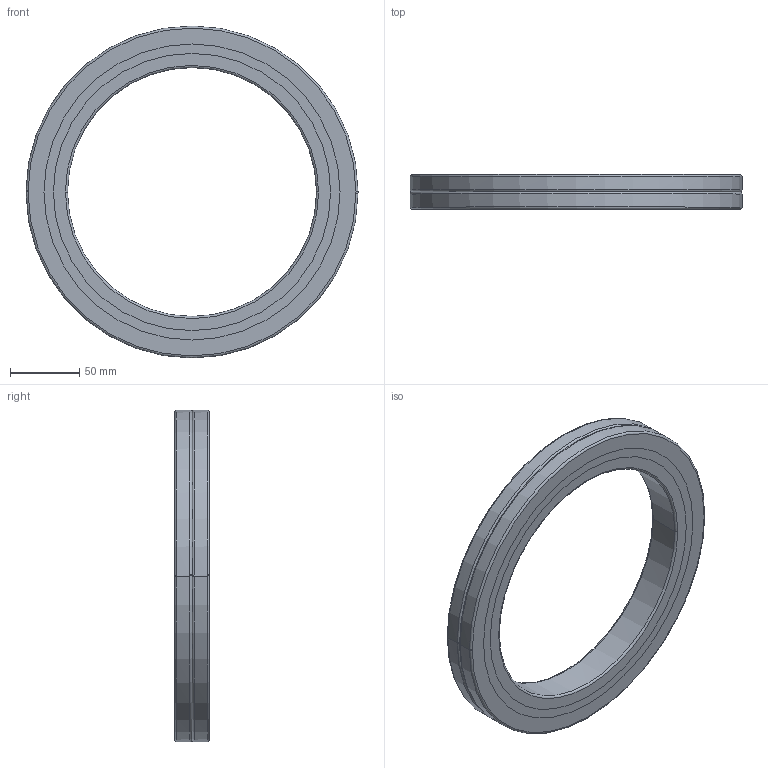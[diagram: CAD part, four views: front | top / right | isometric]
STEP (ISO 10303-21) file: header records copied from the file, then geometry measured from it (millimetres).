
FILE_DESCRIPTION(('no description'),'unknown implementation level');
FILE_NAME('CRBA18025_37.stp',' ',('HIWIN GmbH'),('CADClick - KiM GmbH - www.kimweb.de'),'unknown preprocess','ACIS','unknown authorization');
FILE_SCHEMA(('automotive_design'));
Length unit declared in the file: millimetre
Products named in the file (5): CRBA18025_1; CRBA18025_2; CRBA18025_3; CRBA18025_4; CRBA18025
Bounding box: 240 x 25 x 240 mm (x, y, z)
Volume: 399846.6 mm3; surface area: 135047.8 mm2
Topology: 5 solids, 5 shells, 54 faces, 120 edges, 76 vertices
Faces by surface type: torus 24, cylinder 20, plane 10
Entity records: 3096 total; most frequent: DIRECTION 338, STYLED_ITEM 255, PRESENTATION_STYLE_ASSIGNMENT 255, CARTESIAN_POINT 255, COLOUR_RGB 255, ORIENTED_EDGE 240, AXIS2_PLACEMENT_3D 159, EDGE_CURVE 120
